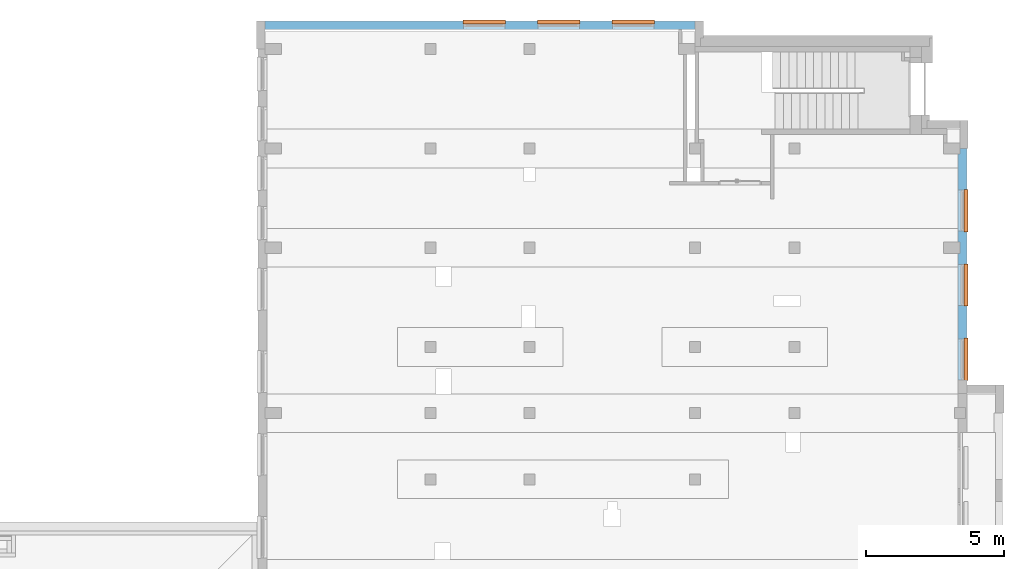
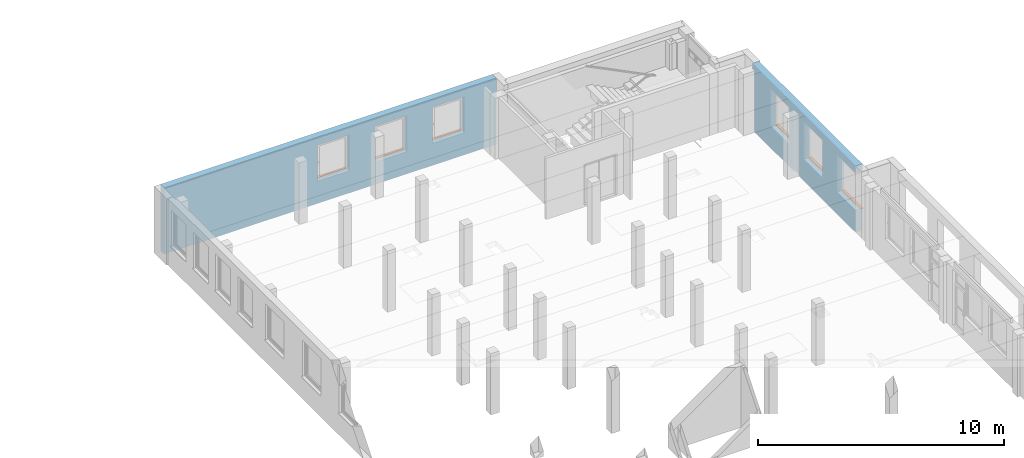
# One storey, part 22 of 27: 6 proxies, 6 openings, plus 2 elements that do not belong to this part.
"""IFC4 building model written with IfcOpenShell, lengths in metres."""

from ifc_helpers import new_model, entity, si_unit, converted_unit, derived_unit, frame, frame_2d, origin, origin_with_axes, place, context, subcontext, project, spatial, polyline, rectangle, outline, extrude, clip, bounded_halfspace, faceted_brep, source, transform, mapped, material, layer, layer_set, layer_usage, element, fill, save


model = new_model("IFC4")

# Units and contexts
model_context = context("Model", 3, precision=1e-05, world=origin())
body_context = subcontext(model_context, "Body", "Model", "MODEL_VIEW")
ifc_project = project(units=[si_unit("LENGTHUNIT", "METRE"), si_unit("AREAUNIT", "SQUARE_METRE"), si_unit("VOLUMEUNIT", "CUBIC_METRE"), si_unit("MASSUNIT", "GRAM", prefix="KILO"), converted_unit("PLANEANGLEUNIT", "DEGREE", entity("IfcPlaneAngleMeasure", 0.0174532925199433), si_unit("PLANEANGLEUNIT", "RADIAN"), dimensions=[0, 0, 0, 0, 0, 0, 0]), derived_unit("THERMALTRANSMITTANCEUNIT", [(si_unit("POWERUNIT", "WATT"), 1), (si_unit("THERMODYNAMICTEMPERATUREUNIT", "KELVIN"), -1), (si_unit("LENGTHUNIT", "METRE"), -2)]), derived_unit("VOLUMETRICFLOWRATEUNIT", [(si_unit("LENGTHUNIT", "METRE"), 3), (converted_unit("TIMEUNIT", "hour", entity("IfcTimeMeasure", 3600.0), si_unit("TIMEUNIT", "SECOND"), dimensions=[0, 0, 1, 0, 0, 0, 0]), -1), (si_unit("LENGTHUNIT", "METRE"), -1)])], contexts=[model_context])

# Site, building, storey
site_placement = place(None, origin())
site = spatial("IfcSite", under=ifc_project, at=site_placement, Name="3. ASŘ", CompositionType="ELEMENT")
building_placement = place(site_placement, origin())
building = spatial("IfcBuilding", under=site, at=building_placement, Name="Pavilon C", CompositionType="ELEMENT")
storey_placement = place(building_placement, frame((0.0, 0.0, 7.2)))
storey = spatial("IfcBuildingStorey", under=building, at=storey_placement, Name="Půdorys 3.NP", CompositionType="ELEMENT", Elevation=7.2)

# Wall, openings, proxies
ifc_material_1 = material(Name="ZELEZOBETONOVÁ KCE")
ifc_layer_1 = layer(ifc_material_1, 0.32)
ifc_layer_set_1 = layer_set([ifc_layer_1])
ifc_layer_usage_1 = layer_usage(ifc_layer_set_1, "AXIS2", "POSITIVE", 0.0)
wall_1_placement = place(storey_placement, frame((50.2, 20.4, -0.1), z_axis=(0.0, 0.0, 1.0), x_axis=(0.0, 1.0, 0.0)))
wall_1 = element("IfcWall", 1, at=wall_1_placement, inside=storey, material=ifc_layer_usage_1, Name="ZELEZOBETONOVÁ KCE", context=body_context, shape_type="Clipping", body=[
    clip(clip(extrude(rectangle(XDim=8.4, YDim=0.32, at=frame_2d((4.2, 0.16), x_axis=(1.0, 0.0))), origin_with_axes(), (0.0, 0.0, 1.0), 3.3), bounded_halfspace(frame((8.3, 0.285, 3.05), z_axis=(0.0, 0.0, 1.0), x_axis=(-1.0, 0.0, 0.0)), True, origin_with_axes(), polyline([(8.4, 0.32), (8.2, 0.32), (8.2, 0.25), (8.4, 0.25), (8.4, 0.32)]))), bounded_halfspace(frame((4.80000000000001, 0.285, 3.05), z_axis=(0.0, 0.0, 1.0), x_axis=(0.0, 1.0, 0.0)), True, origin_with_axes(), polyline([(5.00000000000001, 0.25), (5.00000000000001, 0.32), (4.60000000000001, 0.32), (4.60000000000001, 0.25), (5.00000000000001, 0.25)]))),
])
opening_1_placement = place(wall_1_placement, frame((5.39999999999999, 0.0, 1.1), z_axis=(0.0, 1.0, 0.0), x_axis=(0.0, 0.0, 1.0)))
opening_1 = element("IfcOpeningElement", 2, at=opening_1_placement, cuts=wall_1, Name="Okenní otvor", ObjectType="Opening", context=body_context, shape_type="SweptSolid", body=[
    extrude(outline(polyline([(0.0, 1.5), (1.85, 1.5), (1.85, 0.0), (0.0, 0.0), (0.0, 1.5)])), origin_with_axes(), (0.0, 0.0, 1.0), 0.32),
])
opening_2_placement = place(wall_1_placement, frame((2.69999999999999, 0.0, 1.1), z_axis=(0.0, 1.0, 0.0), x_axis=(0.0, 0.0, 1.0)))
opening_2 = element("IfcOpeningElement", 3, at=opening_2_placement, cuts=wall_1, Name="Okenní otvor", ObjectType="Opening", context=body_context, shape_type="SweptSolid", body=[
    extrude(outline(polyline([(0.0, 1.5), (1.85, 1.5), (1.85, 0.0), (0.0, 0.0), (0.0, 1.5)])), origin_with_axes(), (0.0, 0.0, 1.0), 0.32),
])
opening_3_placement = place(wall_1_placement, frame((0.0, 0.0, 1.1), z_axis=(0.0, 1.0, 0.0), x_axis=(0.0, 0.0, 1.0)))
opening_3 = element("IfcOpeningElement", 4, at=opening_3_placement, cuts=wall_1, Name="Okenní otvor", ObjectType="Opening", context=body_context, shape_type="SweptSolid", body=[
    extrude(outline(polyline([(0.0, 1.5), (1.85, 1.5), (1.85, 0.0), (0.0, 0.0), (0.0, 1.5)])), origin_with_axes(), (0.0, 0.0, 1.0), 0.32),
])
ifc_material_2 = material(Name="PLECH")
shared_shape_1 = source(origin_with_axes(), body_context, "Body", "Brep", [
    faceted_brep([(-7.27595761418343e-15, 1.45519152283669e-14, 0.0), (-7.27595761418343e-15, 0.100000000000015, 0.0), (-7.27595761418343e-15, 0.100000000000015, 0.005), (-7.27595761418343e-15, 1.45519152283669e-14, 0.005), (1.49999999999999, 1.45519152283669e-14, 0.0), (1.49999999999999, 1.45519152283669e-14, 0.005), (1.49999999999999, 0.100000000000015, 0.005), (1.49999999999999, 0.100000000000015, 0.0), (-0.0200000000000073, 1.45519152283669e-14, 0.0), (-0.0200000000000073, -0.0349999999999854, 0.0), (1.51999999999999, -0.0349999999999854, 0.0), (1.51999999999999, 1.45519152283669e-14, 0.0), (1.51999999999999, 1.45519152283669e-14, 0.005), (1.51999999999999, -0.0399999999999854, 0.005), (-0.0200000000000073, -0.0399999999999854, 0.005), (-0.0200000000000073, 1.45519152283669e-14, 0.005), (-0.0200000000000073, -0.0399999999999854, -0.025), (-0.0200000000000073, -0.0349999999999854, -0.025), (1.51999999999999, -0.0349999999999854, -0.025), (1.51999999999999, -0.0399999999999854, -0.025)], [[[0, 1, 2, 3]], [[4, 5, 6, 7]], [[1, 0, 8, 9, 10, 11, 4, 7]], [[2, 1, 7, 6]], [[3, 2, 6, 5, 12, 13, 14, 15]], [[8, 15, 14, 16, 17, 9]], [[11, 10, 18, 19, 13, 12]], [[15, 8, 0, 3]], [[5, 4, 11, 12]], [[16, 14, 13, 19]], [[17, 16, 19, 18]], [[9, 17, 18, 10]]], orient=[[False], [False], [False], [False], [False], [False], [False], [False], [False], [False], [False], [False]]),
    faceted_brep([(-0.0200000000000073, 1.45519152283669e-14, 0.0), (-0.0200000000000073, 0.100000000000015, 0.0), (-0.0200000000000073, 0.100000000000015, 0.005), (-0.0200000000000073, 1.45519152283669e-14, 0.005), (-7.27595761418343e-15, 1.45519152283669e-14, 0.0), (-7.27595761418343e-15, 1.45519152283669e-14, 0.005), (-7.27595761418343e-15, 0.100000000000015, 0.005), (-7.27595761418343e-15, 0.100000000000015, 0.0)], [[[0, 1, 2, 3]], [[4, 5, 6, 7]], [[1, 0, 4, 7]], [[2, 1, 7, 6]], [[3, 2, 6, 5]], [[0, 3, 5, 4]]], orient=[[False], [False], [False], [False], [False], [False]]),
    faceted_brep([(1.49999999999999, 1.45519152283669e-14, 0.0), (1.49999999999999, 0.100000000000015, 0.0), (1.49999999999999, 0.100000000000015, 0.005), (1.49999999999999, 1.45519152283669e-14, 0.005), (1.51999999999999, 1.45519152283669e-14, 0.0), (1.51999999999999, 1.45519152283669e-14, 0.005), (1.51999999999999, 0.100000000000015, 0.005), (1.51999999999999, 0.100000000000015, 0.0)], [[[0, 1, 2, 3]], [[4, 5, 6, 7]], [[1, 0, 4, 7]], [[2, 1, 7, 6]], [[3, 2, 6, 5]], [[0, 3, 5, 4]]], orient=[[False], [False], [False], [False], [False], [False]]),
])
proxy_1_placement = place(opening_1_placement, frame((0.0, 0.0, 0.0), z_axis=(1.0, 0.0, 0.0), x_axis=(0.0, 1.0, 0.0)))
proxy_1 = element("IfcBuildingElementProxy", 5, at=proxy_1_placement, inside=storey, material=ifc_material_2, Name="Parapet vnější", context=body_context, shape_type="MappedRepresentation", body=[
    mapped(shared_shape_1, transform((0.0, 0.0, 0.0), x_axis=(1.0, 0.0, 0.0), y_axis=(0.0, 1.0, 0.0), z_axis=(0.0, 0.0, 1.0), scale=1.0)),
])
fill(opening_1, proxy_1)
ifc_material_3 = material(Name="PLECH")
shared_shape_2 = source(origin_with_axes(), body_context, "Body", "Brep", [
    faceted_brep([(-7.27595761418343e-15, 1.45519152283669e-14, 0.0), (-7.27595761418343e-15, 0.100000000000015, 0.0), (-7.27595761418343e-15, 0.100000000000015, 0.005), (-7.27595761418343e-15, 1.45519152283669e-14, 0.005), (1.49999999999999, 1.45519152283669e-14, 0.0), (1.49999999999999, 1.45519152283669e-14, 0.005), (1.49999999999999, 0.100000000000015, 0.005), (1.49999999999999, 0.100000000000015, 0.0), (-0.0200000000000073, 1.45519152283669e-14, 0.0), (-0.0200000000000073, -0.0349999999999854, 0.0), (1.51999999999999, -0.0349999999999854, 0.0), (1.51999999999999, 1.45519152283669e-14, 0.0), (1.51999999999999, 1.45519152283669e-14, 0.005), (1.51999999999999, -0.0399999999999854, 0.005), (-0.0200000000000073, -0.0399999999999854, 0.005), (-0.0200000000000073, 1.45519152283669e-14, 0.005), (-0.0200000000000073, -0.0399999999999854, -0.025), (-0.0200000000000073, -0.0349999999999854, -0.025), (1.51999999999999, -0.0349999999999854, -0.025), (1.51999999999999, -0.0399999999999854, -0.025)], [[[0, 1, 2, 3]], [[4, 5, 6, 7]], [[1, 0, 8, 9, 10, 11, 4, 7]], [[2, 1, 7, 6]], [[3, 2, 6, 5, 12, 13, 14, 15]], [[8, 15, 14, 16, 17, 9]], [[11, 10, 18, 19, 13, 12]], [[15, 8, 0, 3]], [[5, 4, 11, 12]], [[16, 14, 13, 19]], [[17, 16, 19, 18]], [[9, 17, 18, 10]]], orient=[[False], [False], [False], [False], [False], [False], [False], [False], [False], [False], [False], [False]]),
    faceted_brep([(-0.0200000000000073, 1.45519152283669e-14, 0.0), (-0.0200000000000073, 0.100000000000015, 0.0), (-0.0200000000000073, 0.100000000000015, 0.005), (-0.0200000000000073, 1.45519152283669e-14, 0.005), (-7.27595761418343e-15, 1.45519152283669e-14, 0.0), (-7.27595761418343e-15, 1.45519152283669e-14, 0.005), (-7.27595761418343e-15, 0.100000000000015, 0.005), (-7.27595761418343e-15, 0.100000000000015, 0.0)], [[[0, 1, 2, 3]], [[4, 5, 6, 7]], [[1, 0, 4, 7]], [[2, 1, 7, 6]], [[3, 2, 6, 5]], [[0, 3, 5, 4]]], orient=[[False], [False], [False], [False], [False], [False]]),
    faceted_brep([(1.49999999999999, 1.45519152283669e-14, 0.0), (1.49999999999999, 0.100000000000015, 0.0), (1.49999999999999, 0.100000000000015, 0.005), (1.49999999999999, 1.45519152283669e-14, 0.005), (1.51999999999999, 1.45519152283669e-14, 0.0), (1.51999999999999, 1.45519152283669e-14, 0.005), (1.51999999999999, 0.100000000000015, 0.005), (1.51999999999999, 0.100000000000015, 0.0)], [[[0, 1, 2, 3]], [[4, 5, 6, 7]], [[1, 0, 4, 7]], [[2, 1, 7, 6]], [[3, 2, 6, 5]], [[0, 3, 5, 4]]], orient=[[False], [False], [False], [False], [False], [False]]),
])
proxy_2_placement = place(opening_2_placement, frame((0.0, 0.0, 0.0), z_axis=(1.0, 0.0, 0.0), x_axis=(0.0, 1.0, 0.0)))
proxy_2 = element("IfcBuildingElementProxy", 6, at=proxy_2_placement, inside=storey, material=ifc_material_3, Name="Parapet vnější", context=body_context, shape_type="MappedRepresentation", body=[
    mapped(shared_shape_2, transform((0.0, 0.0, 0.0), x_axis=(1.0, 0.0, 0.0), y_axis=(0.0, 1.0, 0.0), z_axis=(0.0, 0.0, 1.0), scale=1.0)),
])
fill(opening_2, proxy_2)
ifc_material_4 = material(Name="PLECH")
shared_shape_3 = source(origin_with_axes(), body_context, "Body", "Brep", [
    faceted_brep([(-7.27595761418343e-15, 1.45519152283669e-14, 0.0), (-7.27595761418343e-15, 0.100000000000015, 0.0), (-7.27595761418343e-15, 0.100000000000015, 0.005), (-7.27595761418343e-15, 1.45519152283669e-14, 0.005), (1.49999999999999, 1.45519152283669e-14, 0.0), (1.49999999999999, 1.45519152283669e-14, 0.005), (1.49999999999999, 0.100000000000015, 0.005), (1.49999999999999, 0.100000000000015, 0.0), (-0.0200000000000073, 1.45519152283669e-14, 0.0), (-0.0200000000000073, -0.0349999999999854, 0.0), (1.51999999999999, -0.0349999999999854, 0.0), (1.51999999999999, 1.45519152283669e-14, 0.0), (1.51999999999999, 1.45519152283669e-14, 0.005), (1.51999999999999, -0.0399999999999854, 0.005), (-0.0200000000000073, -0.0399999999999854, 0.005), (-0.0200000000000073, 1.45519152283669e-14, 0.005), (-0.0200000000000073, -0.0399999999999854, -0.025), (-0.0200000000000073, -0.0349999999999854, -0.025), (1.51999999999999, -0.0349999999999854, -0.025), (1.51999999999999, -0.0399999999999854, -0.025)], [[[0, 1, 2, 3]], [[4, 5, 6, 7]], [[1, 0, 8, 9, 10, 11, 4, 7]], [[2, 1, 7, 6]], [[3, 2, 6, 5, 12, 13, 14, 15]], [[8, 15, 14, 16, 17, 9]], [[11, 10, 18, 19, 13, 12]], [[15, 8, 0, 3]], [[5, 4, 11, 12]], [[16, 14, 13, 19]], [[17, 16, 19, 18]], [[9, 17, 18, 10]]], orient=[[False], [False], [False], [False], [False], [False], [False], [False], [False], [False], [False], [False]]),
    faceted_brep([(-0.0200000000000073, 1.45519152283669e-14, 0.0), (-0.0200000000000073, 0.100000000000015, 0.0), (-0.0200000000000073, 0.100000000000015, 0.005), (-0.0200000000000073, 1.45519152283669e-14, 0.005), (-7.27595761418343e-15, 1.45519152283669e-14, 0.0), (-7.27595761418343e-15, 1.45519152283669e-14, 0.005), (-7.27595761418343e-15, 0.100000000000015, 0.005), (-7.27595761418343e-15, 0.100000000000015, 0.0)], [[[0, 1, 2, 3]], [[4, 5, 6, 7]], [[1, 0, 4, 7]], [[2, 1, 7, 6]], [[3, 2, 6, 5]], [[0, 3, 5, 4]]], orient=[[False], [False], [False], [False], [False], [False]]),
    faceted_brep([(1.49999999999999, 1.45519152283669e-14, 0.0), (1.49999999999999, 0.100000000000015, 0.0), (1.49999999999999, 0.100000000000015, 0.005), (1.49999999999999, 1.45519152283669e-14, 0.005), (1.51999999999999, 1.45519152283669e-14, 0.0), (1.51999999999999, 1.45519152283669e-14, 0.005), (1.51999999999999, 0.100000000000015, 0.005), (1.51999999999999, 0.100000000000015, 0.0)], [[[0, 1, 2, 3]], [[4, 5, 6, 7]], [[1, 0, 4, 7]], [[2, 1, 7, 6]], [[3, 2, 6, 5]], [[0, 3, 5, 4]]], orient=[[False], [False], [False], [False], [False], [False]]),
])
proxy_3_placement = place(opening_3_placement, frame((0.0, 0.0, 0.0), z_axis=(1.0, 0.0, 0.0), x_axis=(0.0, 1.0, 0.0)))
proxy_3 = element("IfcBuildingElementProxy", 7, at=proxy_3_placement, inside=storey, material=ifc_material_4, Name="Parapet vnější", context=body_context, shape_type="MappedRepresentation", body=[
    mapped(shared_shape_3, transform((0.0, 0.0, 0.0), x_axis=(1.0, 0.0, 0.0), y_axis=(0.0, 1.0, 0.0), z_axis=(0.0, 0.0, 1.0), scale=1.0)),
])
fill(opening_3, proxy_3)

ifc_material_5 = material(Name="ZELEZOBETONOVÁ KCE")
ifc_layer_2 = layer(ifc_material_5, 0.3)
ifc_layer_set_2 = layer_set([ifc_layer_2])
ifc_layer_usage_2 = layer_usage(ifc_layer_set_2, "AXIS2", "POSITIVE", 0.0)
wall_2_placement = place(storey_placement, frame((40.35, 33.42, -0.1), z_axis=(0.0, 0.0, 1.0), x_axis=(-1.0, 0.0, 0.0)))
wall_2 = element("IfcWall", 8, at=wall_2_placement, inside=storey, material=ifc_layer_usage_2, Name="ZELEZOBETONOVÁ KCE", context=body_context, shape_type="SweptSolid", body=[
    extrude(rectangle(XDim=15.6, YDim=0.3, at=frame_2d((7.8, 0.15), x_axis=(1.0, 0.0))), origin_with_axes(), (0.0, 0.0, 1.0), 3.3),
])
opening_4_placement = place(wall_2_placement, frame((1.5, 0.0, 1.1), z_axis=(0.0, 1.0, 0.0), x_axis=(0.0, 0.0, 1.0)))
opening_4 = element("IfcOpeningElement", 9, at=opening_4_placement, cuts=wall_2, Name="Okenní otvor", ObjectType="Opening", context=body_context, shape_type="SweptSolid", body=[
    extrude(outline(polyline([(0.0, 1.5), (1.8, 1.5), (1.8, 0.0), (0.0, 0.0), (0.0, 1.5)])), origin_with_axes(), (0.0, 0.0, 1.0), 0.3),
])
opening_5_placement = place(wall_2_placement, frame((4.2, 0.0, 1.1), z_axis=(0.0, 1.0, 0.0), x_axis=(0.0, 0.0, 1.0)))
opening_5 = element("IfcOpeningElement", 10, at=opening_5_placement, cuts=wall_2, Name="Okenní otvor", ObjectType="Opening", context=body_context, shape_type="SweptSolid", body=[
    extrude(outline(polyline([(0.0, 1.5), (1.8, 1.5), (1.8, 0.0), (0.0, 0.0), (0.0, 1.5)])), origin_with_axes(), (0.0, 0.0, 1.0), 0.3),
])
opening_6_placement = place(wall_2_placement, frame((6.9, 0.0, 1.1), z_axis=(0.0, 1.0, 0.0), x_axis=(0.0, 0.0, 1.0)))
opening_6 = element("IfcOpeningElement", 11, at=opening_6_placement, cuts=wall_2, Name="Okenní otvor", ObjectType="Opening", context=body_context, shape_type="SweptSolid", body=[
    extrude(outline(polyline([(0.0, 1.5), (1.8, 1.5), (1.8, 0.0), (0.0, 0.0), (0.0, 1.5)])), origin_with_axes(), (0.0, 0.0, 1.0), 0.3),
])
ifc_material_6 = material(Name="PLECH")
shared_shape_4 = source(origin_with_axes(), body_context, "Body", "Brep", [
    faceted_brep([(0.0, 0.0, 0.0), (0.0, 0.1, 0.0), (0.0, 0.1, 0.005), (0.0, 0.0, 0.005), (1.5, 0.0, 0.0), (1.5, 0.0, 0.005), (1.5, 0.1, 0.005), (1.5, 0.1, 0.0), (-0.02, 0.0, 0.0), (-0.02, -0.035, 0.0), (1.52, -0.035, 0.0), (1.52, 0.0, 0.0), (1.52, 0.0, 0.005), (1.52, -0.04, 0.005), (-0.02, -0.04, 0.005), (-0.02, 0.0, 0.005), (-0.02, -0.04, -0.025), (-0.02, -0.035, -0.025), (1.52, -0.035, -0.025), (1.52, -0.04, -0.025)], [[[0, 1, 2, 3]], [[4, 5, 6, 7]], [[1, 0, 8, 9, 10, 11, 4, 7]], [[2, 1, 7, 6]], [[3, 2, 6, 5, 12, 13, 14, 15]], [[8, 15, 14, 16, 17, 9]], [[11, 10, 18, 19, 13, 12]], [[15, 8, 0, 3]], [[5, 4, 11, 12]], [[16, 14, 13, 19]], [[17, 16, 19, 18]], [[9, 17, 18, 10]]], orient=[[False], [False], [False], [False], [False], [False], [False], [False], [False], [False], [False], [False]]),
    faceted_brep([(-0.02, 0.0, 0.0), (-0.02, 0.1, 0.0), (-0.02, 0.1, 0.005), (-0.02, 0.0, 0.005), (0.0, 0.0, 0.0), (0.0, 0.0, 0.005), (0.0, 0.1, 0.005), (0.0, 0.1, 0.0)], [[[0, 1, 2, 3]], [[4, 5, 6, 7]], [[1, 0, 4, 7]], [[2, 1, 7, 6]], [[3, 2, 6, 5]], [[0, 3, 5, 4]]], orient=[[False], [False], [False], [False], [False], [False]]),
    faceted_brep([(1.5, 0.0, 0.0), (1.5, 0.1, 0.0), (1.5, 0.1, 0.005), (1.5, 0.0, 0.005), (1.52, 0.0, 0.0), (1.52, 0.0, 0.005), (1.52, 0.1, 0.005), (1.52, 0.1, 0.0)], [[[0, 1, 2, 3]], [[4, 5, 6, 7]], [[1, 0, 4, 7]], [[2, 1, 7, 6]], [[3, 2, 6, 5]], [[0, 3, 5, 4]]], orient=[[False], [False], [False], [False], [False], [False]]),
])
proxy_4_placement = place(opening_4_placement, frame((0.0, 0.0, 0.0), z_axis=(1.0, 0.0, 0.0), x_axis=(0.0, 1.0, 0.0)))
proxy_4 = element("IfcBuildingElementProxy", 12, at=proxy_4_placement, inside=storey, material=ifc_material_6, Name="Parapet vnější", context=body_context, shape_type="MappedRepresentation", body=[
    mapped(shared_shape_4, transform((0.0, 0.0, 0.0), x_axis=(1.0, 0.0, 0.0), y_axis=(0.0, 1.0, 0.0), z_axis=(0.0, 0.0, 1.0), scale=1.0)),
])
fill(opening_4, proxy_4)
ifc_material_7 = material(Name="PLECH")
shared_shape_5 = source(origin_with_axes(), body_context, "Body", "Brep", [
    faceted_brep([(0.0, 0.0, 0.0), (0.0, 0.1, 0.0), (0.0, 0.1, 0.005), (0.0, 0.0, 0.005), (1.5, 0.0, 0.0), (1.5, 0.0, 0.005), (1.5, 0.1, 0.005), (1.5, 0.1, 0.0), (-0.02, 0.0, 0.0), (-0.02, -0.035, 0.0), (1.52, -0.035, 0.0), (1.52, 0.0, 0.0), (1.52, 0.0, 0.005), (1.52, -0.04, 0.005), (-0.02, -0.04, 0.005), (-0.02, 0.0, 0.005), (-0.02, -0.04, -0.025), (-0.02, -0.035, -0.025), (1.52, -0.035, -0.025), (1.52, -0.04, -0.025)], [[[0, 1, 2, 3]], [[4, 5, 6, 7]], [[1, 0, 8, 9, 10, 11, 4, 7]], [[2, 1, 7, 6]], [[3, 2, 6, 5, 12, 13, 14, 15]], [[8, 15, 14, 16, 17, 9]], [[11, 10, 18, 19, 13, 12]], [[15, 8, 0, 3]], [[5, 4, 11, 12]], [[16, 14, 13, 19]], [[17, 16, 19, 18]], [[9, 17, 18, 10]]], orient=[[False], [False], [False], [False], [False], [False], [False], [False], [False], [False], [False], [False]]),
    faceted_brep([(-0.02, 0.0, 0.0), (-0.02, 0.1, 0.0), (-0.02, 0.1, 0.005), (-0.02, 0.0, 0.005), (0.0, 0.0, 0.0), (0.0, 0.0, 0.005), (0.0, 0.1, 0.005), (0.0, 0.1, 0.0)], [[[0, 1, 2, 3]], [[4, 5, 6, 7]], [[1, 0, 4, 7]], [[2, 1, 7, 6]], [[3, 2, 6, 5]], [[0, 3, 5, 4]]], orient=[[False], [False], [False], [False], [False], [False]]),
    faceted_brep([(1.5, 0.0, 0.0), (1.5, 0.1, 0.0), (1.5, 0.1, 0.005), (1.5, 0.0, 0.005), (1.52, 0.0, 0.0), (1.52, 0.0, 0.005), (1.52, 0.1, 0.005), (1.52, 0.1, 0.0)], [[[0, 1, 2, 3]], [[4, 5, 6, 7]], [[1, 0, 4, 7]], [[2, 1, 7, 6]], [[3, 2, 6, 5]], [[0, 3, 5, 4]]], orient=[[False], [False], [False], [False], [False], [False]]),
])
proxy_5_placement = place(opening_5_placement, frame((0.0, 0.0, 0.0), z_axis=(1.0, 0.0, 0.0), x_axis=(0.0, 1.0, 0.0)))
proxy_5 = element("IfcBuildingElementProxy", 13, at=proxy_5_placement, inside=storey, material=ifc_material_7, Name="Parapet vnější", context=body_context, shape_type="MappedRepresentation", body=[
    mapped(shared_shape_5, transform((0.0, 0.0, 0.0), x_axis=(1.0, 0.0, 0.0), y_axis=(0.0, 1.0, 0.0), z_axis=(0.0, 0.0, 1.0), scale=1.0)),
])
fill(opening_5, proxy_5)
ifc_material_8 = material(Name="PLECH")
shared_shape_6 = source(origin_with_axes(), body_context, "Body", "Brep", [
    faceted_brep([(0.0, 0.0, 0.0), (0.0, 0.1, 0.0), (0.0, 0.1, 0.005), (0.0, 0.0, 0.005), (1.5, 0.0, 0.0), (1.5, 0.0, 0.005), (1.5, 0.1, 0.005), (1.5, 0.1, 0.0), (-0.02, 0.0, 0.0), (-0.02, -0.035, 0.0), (1.52, -0.035, 0.0), (1.52, 0.0, 0.0), (1.52, 0.0, 0.005), (1.52, -0.04, 0.005), (-0.02, -0.04, 0.005), (-0.02, 0.0, 0.005), (-0.02, -0.04, -0.025), (-0.02, -0.035, -0.025), (1.52, -0.035, -0.025), (1.52, -0.04, -0.025)], [[[0, 1, 2, 3]], [[4, 5, 6, 7]], [[1, 0, 8, 9, 10, 11, 4, 7]], [[2, 1, 7, 6]], [[3, 2, 6, 5, 12, 13, 14, 15]], [[8, 15, 14, 16, 17, 9]], [[11, 10, 18, 19, 13, 12]], [[15, 8, 0, 3]], [[5, 4, 11, 12]], [[16, 14, 13, 19]], [[17, 16, 19, 18]], [[9, 17, 18, 10]]], orient=[[False], [False], [False], [False], [False], [False], [False], [False], [False], [False], [False], [False]]),
    faceted_brep([(-0.02, 0.0, 0.0), (-0.02, 0.1, 0.0), (-0.02, 0.1, 0.005), (-0.02, 0.0, 0.005), (0.0, 0.0, 0.0), (0.0, 0.0, 0.005), (0.0, 0.1, 0.005), (0.0, 0.1, 0.0)], [[[0, 1, 2, 3]], [[4, 5, 6, 7]], [[1, 0, 4, 7]], [[2, 1, 7, 6]], [[3, 2, 6, 5]], [[0, 3, 5, 4]]], orient=[[False], [False], [False], [False], [False], [False]]),
    faceted_brep([(1.5, 0.0, 0.0), (1.5, 0.1, 0.0), (1.5, 0.1, 0.005), (1.5, 0.0, 0.005), (1.52, 0.0, 0.0), (1.52, 0.0, 0.005), (1.52, 0.1, 0.005), (1.52, 0.1, 0.0)], [[[0, 1, 2, 3]], [[4, 5, 6, 7]], [[1, 0, 4, 7]], [[2, 1, 7, 6]], [[3, 2, 6, 5]], [[0, 3, 5, 4]]], orient=[[False], [False], [False], [False], [False], [False]]),
])
proxy_6_placement = place(opening_6_placement, frame((0.0, 0.0, 0.0), z_axis=(1.0, 0.0, 0.0), x_axis=(0.0, 1.0, 0.0)))
proxy_6 = element("IfcBuildingElementProxy", 14, at=proxy_6_placement, inside=storey, material=ifc_material_8, Name="Parapet vnější", context=body_context, shape_type="MappedRepresentation", body=[
    mapped(shared_shape_6, transform((0.0, 0.0, 0.0), x_axis=(1.0, 0.0, 0.0), y_axis=(0.0, 1.0, 0.0), z_axis=(0.0, 0.0, 1.0), scale=1.0)),
])
fill(opening_6, proxy_6)

save(model, "model.ifc")
